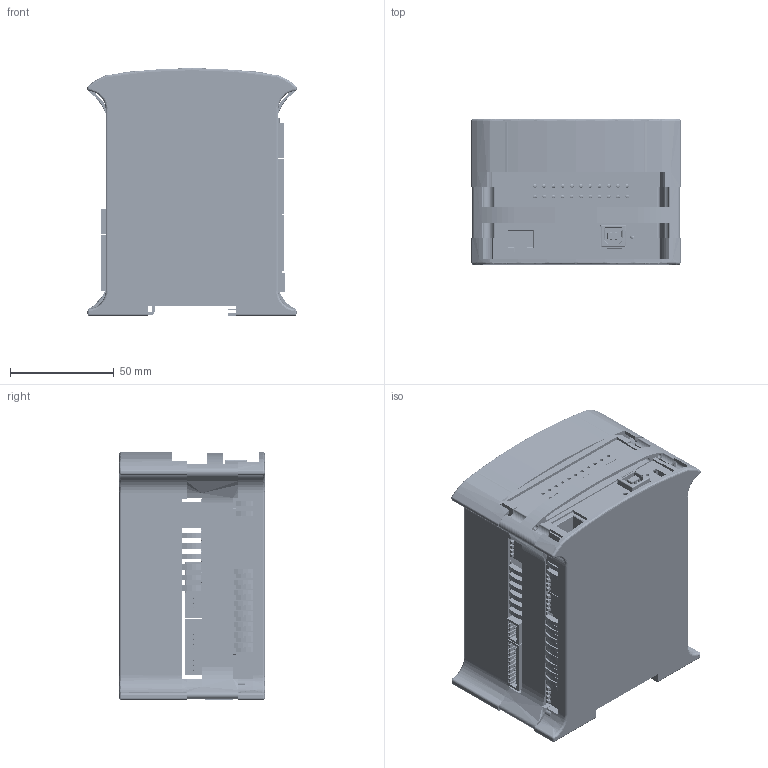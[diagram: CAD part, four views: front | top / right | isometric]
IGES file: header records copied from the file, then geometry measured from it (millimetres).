
Start section: SolidWorks IGES file using analytic representation for surfaces
Global section: file name: D:\Dropbox (Boot&Work_Corp_SL)\Equipo Tecnico\PROYECTOS\INDUSTRIAL SHIELDS\I+D\3D\3D conjuntos\equipos\M_duino base\21+\Mduino_21+.IGS; native system: SolidWorks 2016; preprocessor: SolidWorks 2016; author: Usuario; date: 191106.133923; units: millimetre
Bounding box: 101 x 70.1 x 119.5 mm (x, y, z)
Surface area: 189865.3 mm2 (no closed solid volume)
Topology: 0 solids, 0 shells, 21679 faces, 156891 edges, 156742 vertices
Faces by surface type: bspline 16569, revolution 5110
